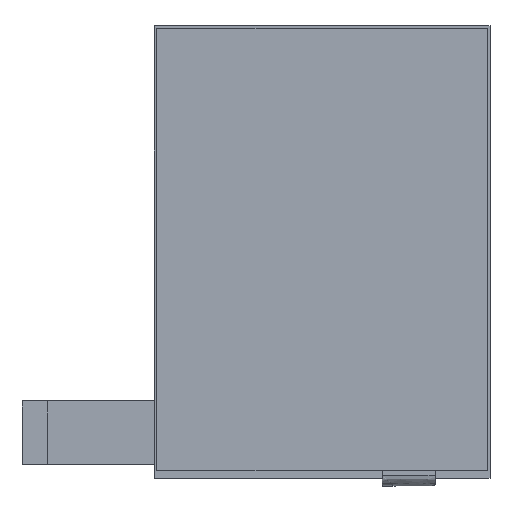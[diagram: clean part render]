
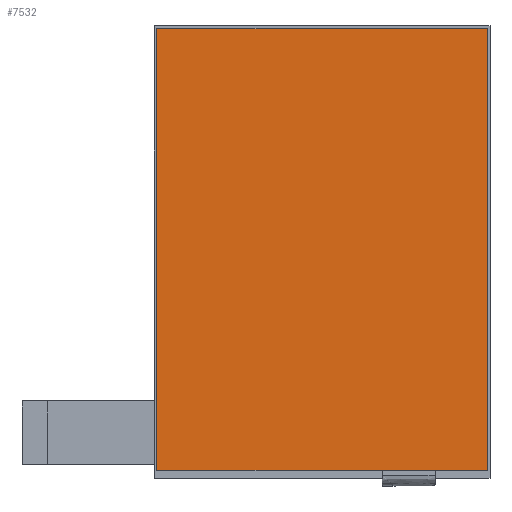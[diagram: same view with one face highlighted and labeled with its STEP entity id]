
A CAD part, top view. The second image highlights one B-rep face of the part: STEP entity #7532.
In plain terms, the highlighted planar face has unit normal (0, 0, 1).
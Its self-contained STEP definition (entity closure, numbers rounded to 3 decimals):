
#327 = CARTESIAN_POINT ( 'NONE',  ( 0., 0., 4.33 ) ) ;
#612 = DIRECTION ( 'NONE',  ( 0., -1., 0. ) ) ;
#1094 = EDGE_LOOP ( 'NONE', ( #9282, #13679, #6133, #13185 ) ) ;
#1408 = CARTESIAN_POINT ( 'NONE',  ( -31.25, 42.25, 4.33 ) ) ;
#1441 = EDGE_CURVE ( 'NONE', #11307, #13670, #12761, .T. ) ;
#1493 = EDGE_CURVE ( 'NONE', #5950, #11307, #5331, .T. ) ;
#1750 = CARTESIAN_POINT ( 'NONE',  ( 31.25, -41.25, 4.33 ) ) ;
#2095 = CARTESIAN_POINT ( 'NONE',  ( 31.25, 42.25, 4.33 ) ) ;
#2778 = EDGE_CURVE ( 'NONE', #13670, #5238, #13675, .T. ) ;
#3728 = DIRECTION ( 'NONE',  ( -1., 0., 0. ) ) ;
#4434 = DIRECTION ( 'NONE',  ( 1., 0., 0. ) ) ;
#5018 = CARTESIAN_POINT ( 'NONE',  ( -31.25, 42.25, 4.33 ) ) ;
#5066 = LINE ( 'NONE', #5018, #5449 ) ;
#5238 = VERTEX_POINT ( 'NONE', #1408 ) ;
#5331 = LINE ( 'NONE', #15169, #5725 ) ;
#5337 = PLANE ( 'NONE',  #15103 ) ;
#5449 = VECTOR ( 'NONE', #612, 1000. ) ;
#5665 = EDGE_CURVE ( 'NONE', #5238, #5950, #5066, .T. ) ;
#5725 = VECTOR ( 'NONE', #15340, 1000. ) ;
#5950 = VERTEX_POINT ( 'NONE', #13182 ) ;
#6133 = ORIENTED_EDGE ( 'NONE', *, *, #1441, .T. ) ;
#7036 = VECTOR ( 'NONE', #3728, 1000. ) ;
#7383 = DIRECTION ( 'NONE',  ( 0., 1., 0. ) ) ;
#7532 = ADVANCED_FACE ( 'NONE', ( #15158 ), #5337, .T. ) ;
#9061 = VECTOR ( 'NONE', #7383, 1000. ) ;
#9282 = ORIENTED_EDGE ( 'NONE', *, *, #5665, .T. ) ;
#10102 = CARTESIAN_POINT ( 'NONE',  ( -31.25, 42.25, 4.33 ) ) ;
#11307 = VERTEX_POINT ( 'NONE', #1750 ) ;
#12761 = LINE ( 'NONE', #2095, #9061 ) ;
#13182 = CARTESIAN_POINT ( 'NONE',  ( -31.25, -41.25, 4.33 ) ) ;
#13185 = ORIENTED_EDGE ( 'NONE', *, *, #2778, .T. ) ;
#13670 = VERTEX_POINT ( 'NONE', #14263 ) ;
#13675 = LINE ( 'NONE', #10102, #7036 ) ;
#13679 = ORIENTED_EDGE ( 'NONE', *, *, #1493, .T. ) ;
#14263 = CARTESIAN_POINT ( 'NONE',  ( 31.25, 42.25, 4.33 ) ) ;
#15103 = AXIS2_PLACEMENT_3D ( 'NONE', #327, #15692, #4434 ) ;
#15158 = FACE_OUTER_BOUND ( 'NONE', #1094, .T. ) ;
#15169 = CARTESIAN_POINT ( 'NONE',  ( -31.25, -41.25, 4.33 ) ) ;
#15340 = DIRECTION ( 'NONE',  ( 1., 0., 0. ) ) ;
#15692 = DIRECTION ( 'NONE',  ( 0., 0., 1. ) ) ;
